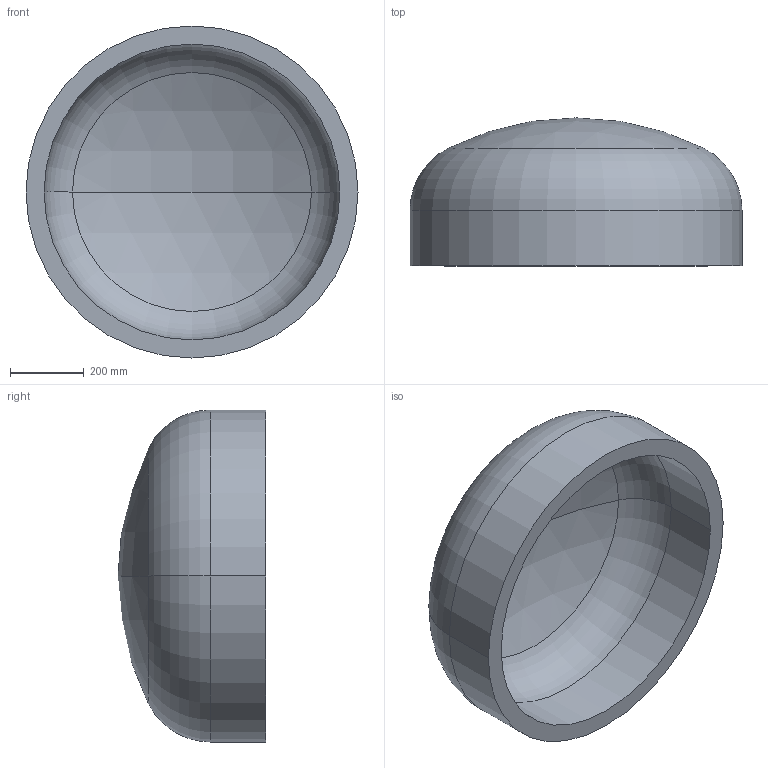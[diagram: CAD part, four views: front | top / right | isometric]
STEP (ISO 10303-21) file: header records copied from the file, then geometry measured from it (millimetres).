
FILE_DESCRIPTION (( 'STEP AP203' ), '1' );
FILE_NAME ('DIN 28013 Korbbogenform_-_Boden DIN 28013 - 900 x 150 - I - s=49.step', '2016-07-01T08:33:17', ( '' ), ( '' ), 'SwSTEP 2.0', 'SolidWorks 2013', '' );
FILE_SCHEMA (( 'CONFIG_CONTROL_DESIGN' ));
Length unit declared in the file: millimetre
Products named in the file (1): DIN 28013 Korbbogenform_-_Boden DIN 28013 - 900 x 150 - I - s=49
Bounding box: 900 x 401.04 x 900 mm (x, y, z)
Volume: 60000057.4 mm3; surface area: 2585011.4 mm2
Topology: 1 solids, 1 shells, 13 faces, 24 edges, 14 vertices
Faces by surface type: torus 4, cylinder 4, sphere 4, plane 1
Entity records: 407 total; most frequent: DIRECTION 72, CARTESIAN_POINT 52, ORIENTED_EDGE 48, AXIS2_PLACEMENT_3D 34, EDGE_CURVE 24, CIRCLE 20, EDGE_LOOP 14, VERTEX_POINT 14
